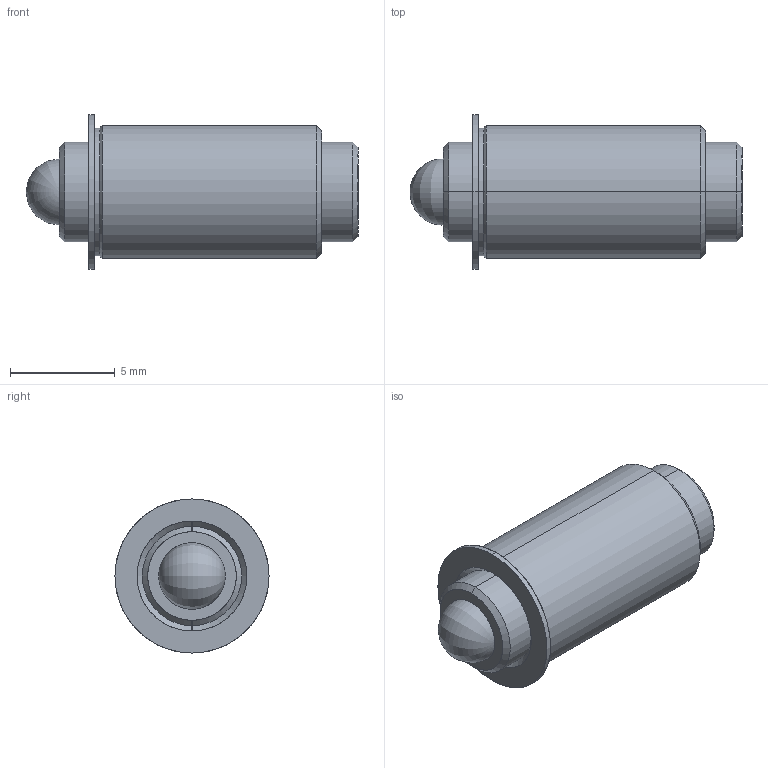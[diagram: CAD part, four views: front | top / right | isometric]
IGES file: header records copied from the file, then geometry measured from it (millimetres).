
Start section: SolidWorks IGES file using analytic representation for surfaces
Global section: file name: C:\Users\workpc\Desktop\KMA Solidworks\TSB187-100-625_437.IGS; native system: SolidWorks 2013; preprocessor: SolidWorks 2013; author: workpc; date: 130313.091122; units: inch
Bounding box: 15.87 x 7.37 x 7.37 mm (x, y, z)
Surface area: 556.6 mm2 (no closed solid volume)
Topology: 0 solids, 0 shells, 33 faces, 406 edges, 402 vertices
Faces by surface type: revolution 22, bspline 11
